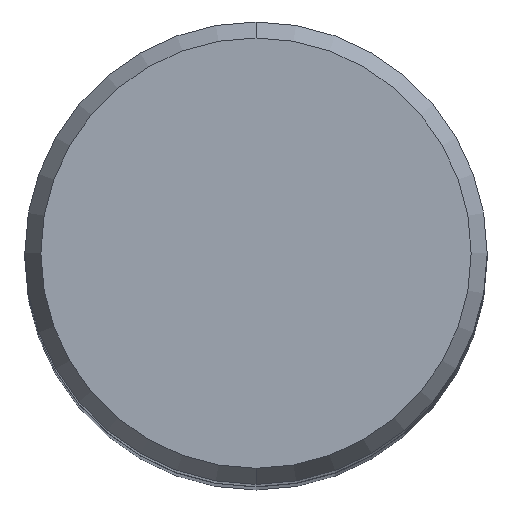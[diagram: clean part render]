
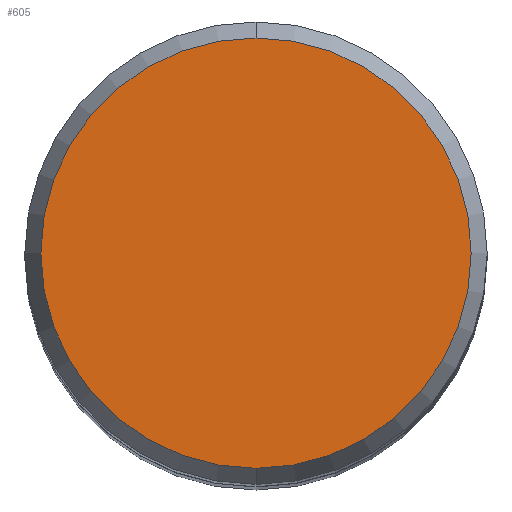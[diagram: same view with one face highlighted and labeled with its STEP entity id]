
A CAD part, top view. The second image highlights one B-rep face of the part: STEP entity #605.
In plain terms, the highlighted planar face has unit normal (0, 0, 1).
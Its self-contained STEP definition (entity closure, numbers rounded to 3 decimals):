
#277=VERTEX_POINT('',#705);
#313=EDGE_CURVE('',#277,#321,#744,.T.);
#321=VERTEX_POINT('',#753);
#397=EDGE_CURVE('',#321,#277,#836,.T.);
#605=ADVANCED_FACE('',(#1073),#1074,.T.);
#705=CARTESIAN_POINT('',(0.,-9.307,0.0));
#744=CIRCLE('',#1408,9.307);
#753=CARTESIAN_POINT('',(0.0,9.307,0.0));
#836=CIRCLE('',#1610,9.307);
#1073=FACE_OUTER_BOUND('',#2039,.T.);
#1074=PLANE('',#2040);
#1408=AXIS2_PLACEMENT_3D('',#2176,#2177,#2178);
#1610=AXIS2_PLACEMENT_3D('',#2280,#2281,#2282);
#2039=EDGE_LOOP('',(#2585,#2586));
#2040=AXIS2_PLACEMENT_3D('',#2587,#2588,#2589);
#2176=CARTESIAN_POINT('',(0.0,0.0,0.0));
#2177=DIRECTION('',(0.0,0.0,-1.0));
#2178=DIRECTION('',(0.0,1.0,0.0));
#2280=CARTESIAN_POINT('',(0.0,0.0,0.0));
#2281=DIRECTION('',(0.0,0.0,-1.0));
#2282=DIRECTION('',(0.0,1.0,0.0));
#2585=ORIENTED_EDGE('',*,*,#397,.F.);
#2586=ORIENTED_EDGE('',*,*,#313,.F.);
#2587=CARTESIAN_POINT('',(0.0,4.654,0.0));
#2588=DIRECTION('',(-0.0,0.0,1.0));
#2589=DIRECTION('',(0.0,-1.0,0.0));
